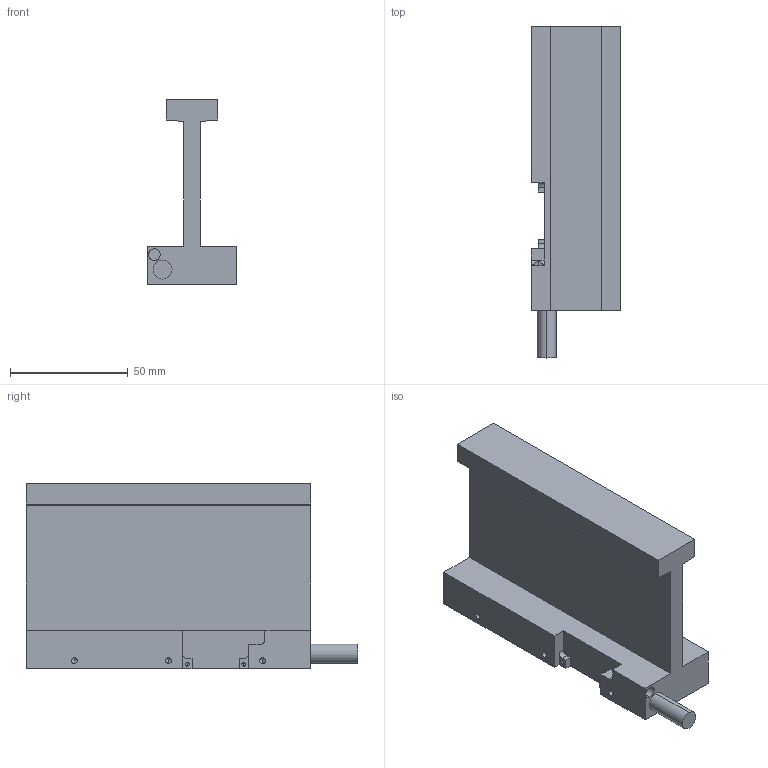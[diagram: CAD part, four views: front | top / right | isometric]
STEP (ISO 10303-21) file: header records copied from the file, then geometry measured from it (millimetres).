
FILE_DESCRIPTION (( 'STEP AP214' ), '1' );
FILE_NAME ('JKA42.STEP', '2025-09-05T08:43:39', ( '' ), ( '' ), 'SwSTEP 2.0', 'SolidWorks 2016', '' );
FILE_SCHEMA (( 'AUTOMOTIVE_DESIGN' ));
Length unit declared in the file: millimetre
Products named in the file (1): JKA42
Bounding box: 38 x 141 x 79 mm (x, y, z)
Volume: 143634.6 mm3; surface area: 35856.9 mm2
Topology: 1 solids, 1 shells, 96 faces, 249 edges, 140 vertices
Faces by surface type: cylinder 38, cone 30, plane 28
Entity records: 3088 total; most frequent: CARTESIAN_POINT 486, DIRECTION 486, ORIENTED_EDGE 438, EDGE_CURVE 219, AXIS2_PLACEMENT_3D 172, LINE 142, VECTOR 142, VERTEX_POINT 140
